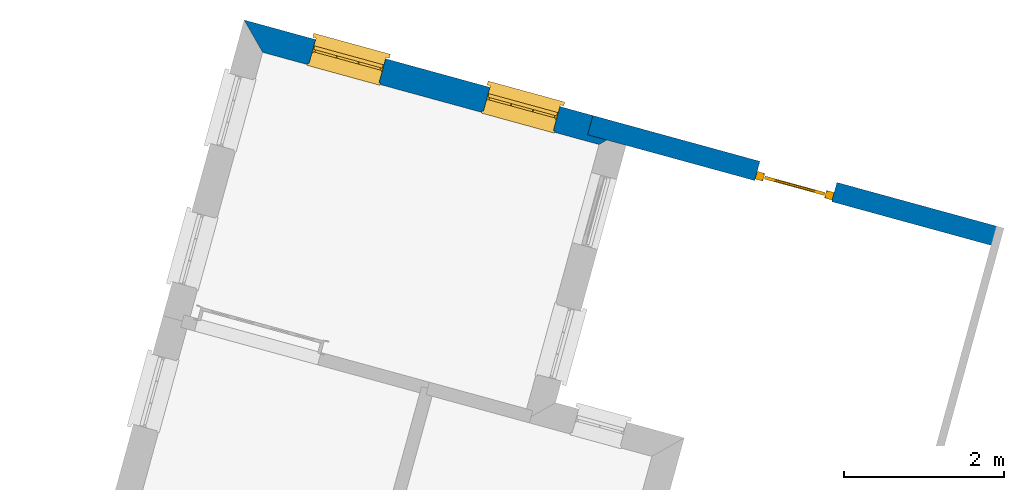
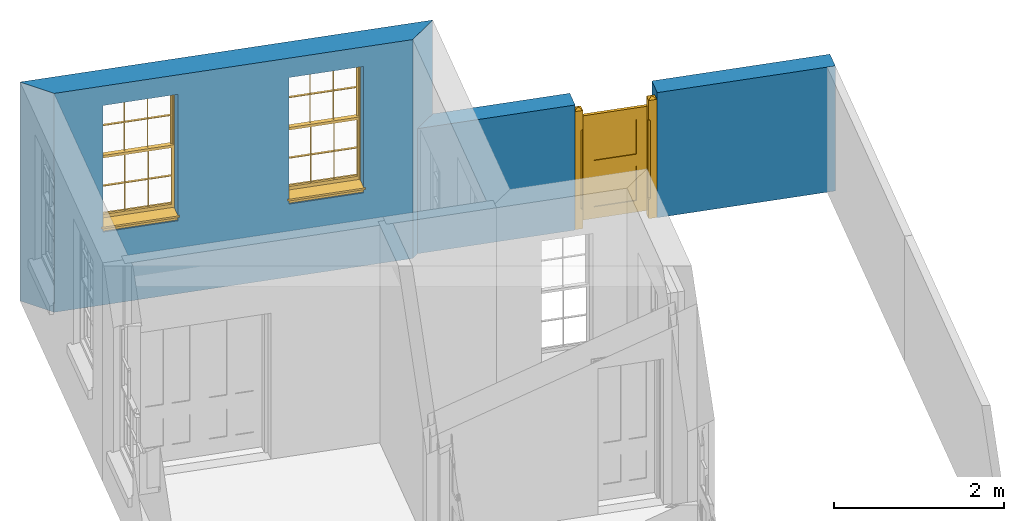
# One storey, part 7 of 8: 2 walls, 2 windows, 1 door, 3 openings.
"""IFC4 building model written with IfcOpenShell, lengths in metres."""

from ifc_helpers import new_model, si_unit, frame, origin, origin_with_axes, place, context, subcontext, project, spatial, polyline, outline, extrude, faceted_brep, source, transform, mapped, material, layer, layer_set, layer_usage, type_object, type_shapes, element, fill, save


model = new_model("IFC4")

# Units and contexts
model_context = context("Model", 3, world=origin_with_axes())
body_context = subcontext(model_context, "Body", "Model", "MODEL_VIEW")
ifc_project = project(units=[si_unit("PLANEANGLEUNIT", "RADIAN"), si_unit("MASSUNIT", "GRAM", prefix="KILO"), si_unit("FORCEUNIT", "NEWTON", prefix="KILO"), si_unit("LENGTHUNIT", "METRE"), si_unit("AREAUNIT", "SQUARE_METRE"), si_unit("VOLUMEUNIT", "CUBIC_METRE")], contexts=[model_context, model_context])

# Sites, building, storey
site_1_placement = place(None, origin_with_axes())
site_1 = spatial("IfcSite", under=ifc_project, at=site_1_placement, Name="Tamar")
site_2_placement = place(site_1_placement, origin_with_axes())
site_2 = spatial("IfcSite", under=site_1, at=site_2_placement, Name="Site plot-28", CompositionType="ELEMENT")
building_placement = place(None, origin_with_axes())
building = spatial("IfcBuilding", under=site_2, at=building_placement, Name="Building plot-28", CompositionType="ELEMENT")
storey_placement = place(None, frame((0.0, 0.0, 24.0), z_axis=(0.0, 0.0, 1.0), x_axis=(1.0, 0.0, 0.0)))
storey = spatial("IfcBuildingStorey", under=building, at=storey_placement, Name="plot-28 0", CompositionType="ELEMENT", Elevation=24.0)

# Wall, openings, windows
ifc_material_1 = material(Name="Masonry")
ifc_layer_1 = layer(ifc_material_1, 0.33, ventilated=False)
ifc_layer_set_1 = layer_set([ifc_layer_1], Name="exterior_0.08_0.25")
ifc_layer_usage_1 = layer_usage(ifc_layer_set_1, "AXIS2", "POSITIVE", -0.25)
wall_type_1 = type_object("IfcWallType", Name="exterior_0.08_0.25", PredefinedType="SOLIDWALL", material=ifc_layer_set_1)
wall_1_placement = place(storey_placement, frame((265.918112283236, 267.466264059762, 0.0), z_axis=(0.0, 0.0, 1.0), x_axis=(-0.964452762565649, 0.264255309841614, 0.0)))
wall_1 = element("IfcWall", 1, at=wall_1_placement, inside=storey, type_object=wall_type_1, material=ifc_layer_usage_1, Name="exterior", context=body_context, shape_type="SweptSolid", body=[
    extrude(outline(polyline([(0.0799999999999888, 0.0800000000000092), (-0.250000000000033, -0.250000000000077), (4.77974619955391, -0.249999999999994), (4.4497461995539, 0.0799999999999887), (0.0799999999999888, 0.0800000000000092)])), origin_with_axes(), (0.0, 0.0, 1.0), 3.15),
])
opening_1_placement = place(wall_1_placement, frame((0.677436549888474, 0.0, 1.05)))
opening_1 = element("IfcOpeningElement", 2, at=opening_1_placement, cuts=wall_1, Name="My Opening", ObjectType="Opening", context=body_context, shape_type="SweptSolid", body=[
    extrude(outline(polyline([(0.0, -0.270000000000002), (0.909999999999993, -0.27000000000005), (0.909999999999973, 1.1), (-2.04281036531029e-14, 1.10000000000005), (0.0, -0.270000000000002)])), origin_with_axes(), (0.0, 0.0, 1.0), 1.82),
])
opening_2_placement = place(wall_1_placement, frame((2.94230964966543, 0.0, 1.05)))
opening_2 = element("IfcOpeningElement", 3, at=opening_2_placement, cuts=wall_1, Name="My Opening", ObjectType="Opening", context=body_context, shape_type="SweptSolid", body=[
    extrude(outline(polyline([(0.0, -0.270000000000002), (0.909999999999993, -0.27000000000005), (0.909999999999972, 1.1), (-2.04281036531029e-14, 1.10000000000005), (0.0, -0.270000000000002)])), origin_with_axes(), (0.0, 0.0, 1.0), 1.82),
])
window_type = type_object("IfcWindowType", Name="sash_big", PartitioningType="DOUBLE_PANEL_HORIZONTAL", PredefinedType="NOTDEFINED")
shared_shape_1 = source(origin(), body_context, "Body", "Brep", [
    faceted_brep([(0.033125, 0.145, 0.975209), (0.01, 0.145, 0.975209), (0.033125, 0.145, 1.376042), (0.876875, 0.145, 0.975209), (0.876875, 0.145, 1.376042), (0.9, 0.145, 0.975209), (0.876875, 0.145, 1.386042), (0.876875, 0.145, 1.786875), (0.9, 0.145, 1.81), (0.033125, 0.145, 1.786875), (0.033125, 0.145, 1.386042), (0.01, 0.145, 1.81), (0.876875, 0.115, 1.376042), (0.876875, 0.115, 0.975209), (0.9, 0.115, 0.937083), (0.033125, 0.115, 1.786875), (0.01, 0.115, 1.81), (0.033125, 0.115, 1.386042), (0.01, 0.115, 0.937083), (0.033125, 0.115, 0.975209), (0.033125, 0.115, 1.376042), (0.876875, 0.115, 1.786875), (0.876875, 0.115, 1.386042), (0.9, 0.115, 1.81), (0.033125, 0.145, 0.937083), (0.01, 0.145, 0.937083), (0.033125, 0.145, 0.53625), (0.876875, 0.145, 0.937083), (0.876875, 0.145, 0.53625), (0.9, 0.145, 0.937083), (0.876875, 0.145, 0.52625), (0.876875, 0.145, 0.125417), (0.9, 0.145, 0.077167), (0.033125, 0.145, 0.125417), (0.033125, 0.145, 0.52625), (0.01, 0.145, 0.077167), (-0.0425, 0.0, 0.01), (-0.0425, -0.05, 0.001667), (0.0, 0.0, 0.01), (0.9525, 0.0, 0.01), (0.91, 0.0, 0.01), (0.9525, -0.05, 0.001667), (-0.02, 0.33, 0.077167), (0.0, 0.33, 0.077167), (-0.02, 0.36, 0.077167), (0.0, 0.19, 0.077167), (0.01, 0.19, 0.077167), (0.91, 0.19, 0.077167), (0.91, 0.33, 0.077167), (0.9, 0.19, 0.077167), (0.93, 0.33, 0.077167), (0.93, 0.36, 0.077167), (0.01, 0.175, 0.975209), (0.9, 0.175, 0.975209), (0.876875, 0.175, 0.125417), (0.876875, 0.175, 0.52625), (0.9, 0.175, 0.077167), (0.876875, 0.175, 0.53625), (0.876875, 0.175, 0.937083), (0.033125, 0.175, 0.125417), (0.01, 0.175, 0.077167), (0.033125, 0.175, 0.52625), (0.033125, 0.175, 0.937083), (0.033125, 0.175, 0.53625), (-0.02, 0.33, 0.052167), (-0.02, 0.36, 0.052167), (0.93, 0.36, 0.052167), (0.93, 0.33, 0.052167), (0.91, 0.33, 0.052167), (0.0, 0.33, 0.052167), (0.91, 0.1, 0.026667), (0.0, 0.1, 0.026667), (-0.0425, -0.05, -0.123333), (0.9525, -0.05, -0.123333), (-0.0425, 0.0, -0.123333), (0.9525, 0.0, -0.123333), (0.01, 0.19, 1.81), (0.9, 0.19, 1.81), (0.0, 0.19, 1.82), (0.91, 0.19, 1.82), (0.01, 0.1, 0.077167), (0.9, 0.1, 0.077167), (0.592292, 0.145, 0.125417), (0.592292, 0.175, 0.125417), (0.317708, 0.175, 0.125417), (0.317708, 0.145, 0.125417), (0.592292, 0.145, 0.53625), (0.317708, 0.145, 0.53625), (0.317708, 0.145, 0.52625), (0.592292, 0.145, 0.52625), (0.592292, 0.175, 0.53625), (0.317708, 0.175, 0.53625), (0.592292, 0.115, 1.386042), (0.592292, 0.145, 1.386042), (0.317708, 0.145, 1.386042), (0.317708, 0.115, 1.386042), (0.317708, 0.115, 1.376042), (0.592292, 0.115, 1.376042), (0.317708, 0.145, 1.376042), (0.592292, 0.145, 1.376042), (0.602292, 0.115, 1.376042), (0.592292, 0.115, 0.975209), (0.602292, 0.115, 0.975209), (0.602292, 0.145, 0.975209), (0.592292, 0.145, 0.975209), (0.602292, 0.145, 1.376042), (0.602292, 0.175, 0.53625), (0.602292, 0.145, 0.53625), (0.317708, 0.175, 0.52625), (0.307708, 0.175, 0.125417), (0.307708, 0.175, 0.52625), (0.602292, 0.175, 0.52625), (0.602292, 0.175, 0.125417), (0.592292, 0.175, 0.52625), (0.307708, 0.175, 0.53625), (0.317708, 0.175, 0.937083), (0.307708, 0.175, 0.937083), (0.602292, 0.175, 0.937083), (0.592292, 0.175, 0.937083), (0.307708, 0.145, 0.52625), (0.307708, 0.145, 0.125417), (0.307708, 0.145, 0.53625), (0.307708, 0.145, 0.937083), (0.592292, 0.145, 0.937083), (0.317708, 0.145, 0.937083), (0.602292, 0.145, 0.937083), (0.602292, 0.145, 0.52625), (0.602292, 0.145, 0.125417), (0.307708, 0.115, 1.386042), (0.307708, 0.115, 1.376042), (0.307708, 0.115, 0.975209), (0.317708, 0.115, 0.975209), (0.317708, 0.115, 1.786875), (0.307708, 0.115, 1.786875), (0.602292, 0.115, 1.786875), (0.592292, 0.115, 1.786875), (0.602292, 0.115, 1.386042), (0.602292, 0.145, 1.386042), (0.307708, 0.145, 1.386042), (0.307708, 0.145, 1.786875), (0.317708, 0.145, 1.786875), (0.592292, 0.145, 1.786875), (0.602292, 0.145, 1.786875), (0.307708, 0.145, 1.376042), (0.317708, 0.145, 0.975209), (0.307708, 0.145, 0.975209), (0.91, 0.1, 1.82), (0.9, 0.1, 1.81), (0.01, 0.1, 1.81), (0.0, 0.1, 1.82), (0.91, 0.0, 0.0), (0.0, 0.0, 0.0), (0.91, 0.33, 0.0), (0.0, 0.33, 0.0)], [[[0, 1, 2]], [[3, 4, 5]], [[6, 7, 8]], [[9, 10, 11]], [[12, 13, 14]], [[15, 16, 17]], [[18, 19, 20]], [[21, 22, 23]], [[24, 25, 26]], [[27, 28, 29]], [[30, 31, 32]], [[33, 34, 35]], [[14, 27, 29]], [[25, 24, 18]], [[36, 37, 38]], [[39, 40, 41]], [[42, 43, 44]], [[45, 46, 43]], [[47, 48, 49]], [[50, 51, 48]], [[1, 0, 52]], [[5, 53, 3]], [[54, 55, 56]], [[57, 58, 53]], [[59, 60, 61]], [[62, 63, 52]], [[48, 43, 46, 49]], [[51, 44, 43, 48]], [[64, 42, 44, 65]], [[65, 44, 51, 66]], [[66, 51, 50, 67]], [[65, 66, 68, 69]], [[60, 56, 49, 46]], [[70, 71, 38, 40]], [[37, 41, 40, 38]], [[37, 72, 73, 41]], [[74, 75, 73, 72]], [[8, 11, 76, 77]], [[76, 78, 79, 77]], [[32, 35, 80, 81]], [[81, 80, 71, 70]], [[82, 83, 84, 85]], [[86, 87, 88, 89]], [[86, 90, 91, 87]], [[92, 93, 94, 95]], [[92, 95, 96, 97]], [[96, 98, 99, 97]], [[100, 97, 101, 102]], [[103, 104, 99, 105]], [[97, 99, 104, 101]], [[102, 103, 105, 100]], [[28, 57, 106, 107]], [[108, 84, 109, 110]], [[111, 112, 83, 113]], [[114, 110, 61, 63]], [[90, 113, 108, 91]], [[115, 91, 114, 116]], [[117, 106, 90, 118]], [[111, 106, 57, 55]], [[119, 110, 109, 120]], [[34, 61, 110, 119]], [[89, 113, 83, 82]], [[88, 108, 113, 89]], [[85, 84, 108, 88]], [[121, 114, 63, 26]], [[122, 116, 114, 121]], [[123, 118, 90, 86]], [[87, 91, 115, 124]], [[107, 106, 117, 125]], [[126, 111, 55, 30]], [[127, 112, 111, 126]], [[126, 30, 28, 107]], [[88, 119, 120, 85]], [[126, 89, 82, 127]], [[125, 123, 86, 107]], [[121, 26, 34, 119]], [[124, 122, 121, 87]], [[128, 17, 20, 129]], [[96, 129, 130, 131]], [[132, 133, 128, 95]], [[134, 135, 92, 136]], [[100, 12, 22, 136]], [[137, 6, 4, 105]], [[94, 138, 139, 140]], [[137, 93, 141, 142]], [[99, 98, 94, 93]], [[143, 2, 10, 138]], [[144, 145, 143, 98]], [[129, 143, 145, 130]], [[20, 2, 143, 129]], [[131, 144, 98, 96]], [[128, 138, 10, 17]], [[133, 139, 138, 128]], [[135, 141, 93, 92]], [[95, 94, 140, 132]], [[22, 6, 137, 136]], [[136, 137, 142, 134]], [[100, 105, 4, 12]], [[107, 86, 89, 126]], [[106, 111, 113, 90]], [[91, 108, 110, 114]], [[87, 121, 119, 88]], [[97, 100, 136, 92]], [[129, 96, 95, 128]], [[98, 143, 138, 94]], [[105, 99, 93, 137]], [[131, 101, 104, 144]], [[124, 115, 118, 123]], [[132, 140, 141, 135]], [[120, 109, 59, 33]], [[15, 9, 139, 133]], [[134, 142, 7, 21]], [[31, 54, 112, 127]], [[36, 74, 72, 37]], [[39, 41, 73, 75]], [[18, 14, 101, 131]], [[23, 16, 132, 135]], [[83, 56, 60, 84]], [[52, 53, 118, 115]], [[53, 52, 144, 104]], [[11, 8, 141, 140]], [[14, 18, 124, 123]], [[2, 1, 11, 10]], [[8, 5, 4, 6]], [[57, 53, 56, 55]], [[60, 52, 63, 61]], [[26, 25, 35, 34]], [[32, 29, 28, 30]], [[14, 23, 22, 12]], [[18, 20, 17, 16]], [[19, 0, 2, 20]], [[17, 10, 9, 15]], [[12, 4, 3, 13]], [[21, 7, 6, 22]], [[27, 58, 57, 28]], [[30, 55, 54, 31]], [[33, 59, 61, 34]], [[26, 63, 62, 24]], [[5, 8, 77, 53]], [[76, 11, 1, 52]], [[46, 45, 78, 76]], [[49, 77, 79, 47]], [[70, 146, 147, 81]], [[71, 80, 148, 149]], [[19, 130, 145, 0]], [[102, 13, 3, 103]], [[116, 122, 24, 62]], [[29, 32, 81, 14]], [[80, 35, 25, 18]], [[60, 46, 76, 52]], [[77, 49, 56, 53]], [[23, 14, 81, 147]], [[16, 148, 80, 18]], [[35, 85, 120]], [[120, 33, 35]], [[127, 82, 32]], [[32, 31, 127]], [[32, 82, 85, 35]], [[102, 101, 14]], [[14, 13, 102]], [[18, 131, 130]], [[130, 19, 18]], [[134, 21, 23]], [[23, 135, 134]], [[16, 15, 133]], [[133, 132, 16]], [[11, 140, 139]], [[139, 9, 11]], [[142, 141, 8]], [[8, 7, 142]], [[23, 147, 148, 16]], [[146, 149, 148, 147]], [[52, 115, 116]], [[116, 62, 52]], [[118, 53, 117]], [[58, 117, 53]], [[27, 125, 117, 58]], [[56, 83, 112]], [[112, 54, 56]], [[109, 84, 60]], [[60, 59, 109]], [[125, 27, 14]], [[14, 123, 125]], [[122, 124, 18]], [[18, 24, 122]], [[145, 144, 52]], [[52, 0, 145]], [[103, 3, 53]], [[53, 104, 103]], [[79, 78, 149, 146]], [[78, 45, 71, 149]], [[146, 70, 47, 79]], [[150, 75, 74, 151]], [[68, 66, 67]], [[48, 68, 67, 50]], [[69, 64, 65]], [[42, 64, 69, 43]], [[69, 68, 152, 153]], [[70, 68, 48, 47]], [[150, 152, 68, 70]], [[43, 69, 71, 45]], [[69, 153, 151, 71]], [[152, 150, 151, 153]], [[38, 151, 74, 36]], [[71, 151, 38]], [[39, 75, 150, 40]], [[40, 150, 70]]]),
])
type_shapes(window_type, [shared_shape_1])
window_1_placement = place(storey_placement, frame((265.33610566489, 267.905682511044, 1.05), z_axis=(0.0, 0.0, 1.0), x_axis=(-0.877652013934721, 0.240472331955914, 0.0)))
window_1 = element("IfcWindow", 4, at=window_1_placement, inside=storey, type_object=window_type, Name="kitchen street window", OverallHeight=1.82, OverallWidth=0.91, context=body_context, shape_type="MappedRepresentation", body=[
    mapped(shared_shape_1, transform((0.0, 0.0, 0.0), scale=1.0)),
])
fill(opening_1, window_1)
window_2_placement = place(storey_placement, frame((263.15174254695, 268.504187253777, 1.05), z_axis=(0.0, 0.0, 1.0), x_axis=(-0.877652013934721, 0.240472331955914, 0.0)))
window_2 = element("IfcWindow", 5, at=window_2_placement, inside=storey, type_object=window_type, Name="kitchen street window", OverallHeight=1.82, OverallWidth=0.91, context=body_context, shape_type="MappedRepresentation", body=[
    mapped(shared_shape_1, transform((0.0, 0.0, 0.0), scale=1.0)),
])
fill(opening_2, window_2)

# Wall, opening, door
ifc_material_2 = material(Name="Masonry")
ifc_layer_2 = layer(ifc_material_2, 0.25, ventilated=False)
ifc_layer_set_2 = layer_set([ifc_layer_2], Name="fence_0_0.25")
ifc_layer_usage_2 = layer_usage(ifc_layer_set_2, "AXIS2", "POSITIVE", -0.25)
wall_type_2 = type_object("IfcWallType", Name="fence_0_0.25", PredefinedType="SOLIDWALL", material=ifc_layer_set_2)
wall_2_placement = place(storey_placement, frame((270.586077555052, 266.187264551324, 0.0), z_axis=(0.0, 0.0, 1.0), x_axis=(-0.964452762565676, 0.264255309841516, 0.0)))
wall_2 = element("IfcWall", 6, at=wall_2_placement, inside=storey, type_object=wall_type_2, material=ifc_layer_usage_2, Name="fence", context=body_context, shape_type="SweptSolid", body=[
    extrude(outline(polyline([(-0.25000000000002, -1.64619169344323e-14), (-0.250000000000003, -0.250000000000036), (5.09001441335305, -0.250000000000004), (5.09001441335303, 1.58229433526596e-14), (-0.25000000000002, -1.64619169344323e-14)])), origin_with_axes(), (0.0, 0.0, 1.0), 1.8),
])
opening_3_placement = place(wall_2_placement, frame((1.92000720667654, 0.0, -0.0100000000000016)))
opening_3 = element("IfcOpeningElement", 7, at=opening_3_placement, cuts=wall_2, Name="My Opening", ObjectType="Opening", context=body_context, shape_type="SweptSolid", body=[
    extrude(outline(polyline([(0.0, -0.270000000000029), (0.99999999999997, -0.269999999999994), (0.999999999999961, 1.01999999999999), (-8.88178419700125e-15, 1.01999999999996), (0.0, -0.270000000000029)])), origin_with_axes(), (0.0, 0.0, 1.0), 1.81),
])
door_type = type_object("IfcDoorType", Name="gate-small", OperationType="SINGLE_SWING_LEFT", PredefinedType="NOTDEFINED")
shared_shape_2 = source(origin(), body_context, "Body", "Brep", [
    faceted_brep([(0.9, 0.25, 1.7), (0.9, 0.15, 1.7), (0.95, 0.2, 1.73), (1.0, 0.15, 1.433333), (1.0, 0.15, 1.7), (0.9, 0.15, 1.433333), (0.9, 0.25, 1.433333), (0.9, 0.25, 0.0), (1.0, 0.25, 0.0), (1.0, 0.15, 0.0), (0.9, 0.15, 0.0), (1.0, 0.25, 1.433333), (1.0, 0.25, 1.7), (0.9, 0.25, 0.266667), (1.0, 0.25, 0.266667), (1.0, 0.25, 0.291667), (0.925, 0.25, 0.291667), (0.925, 0.25, 1.408333), (1.0, 0.25, 1.408333), (1.0, 0.15, 0.266667), (1.0, 0.15, 0.291667), (1.0, 0.15, 1.408333), (0.9, 0.15, 0.266667), (0.9, 0.175, 0.291667), (0.9, 0.225, 0.291667), (0.925, 0.15, 0.291667), (0.9, 0.175, 1.408333), (0.925, 0.15, 1.408333), (0.9, 0.225, 1.408333), (0.0, 0.25, 1.7), (0.0, 0.15, 1.7), (0.05, 0.2, 1.73), (0.0, 0.25, 1.433333), (0.1, 0.25, 1.7), (0.1, 0.25, 1.433333), (0.1, 0.15, 1.7), (0.1, 0.15, 1.433333), (0.1, 0.15, 0.0), (0.0, 0.15, 0.0), (0.0, 0.25, 0.0), (0.1, 0.25, 0.0), (0.0, 0.15, 1.433333), (0.1, 0.15, 0.266667), (0.0, 0.15, 0.266667), (0.0, 0.15, 0.291667), (0.075, 0.15, 0.291667), (0.075, 0.15, 1.408333), (0.0, 0.15, 1.408333), (0.0, 0.25, 0.266667), (0.0, 0.25, 0.291667), (0.0, 0.25, 1.408333), (0.1, 0.25, 0.266667), (0.1, 0.225, 0.291667), (0.1, 0.175, 0.291667), (0.075, 0.25, 0.291667), (0.1, 0.225, 1.408333), (0.075, 0.25, 1.408333), (0.1, 0.175, 1.408333), (0.11, 0.18, 1.433333), (0.11, 0.18, 1.6), (0.11, 0.22, 1.6), (0.11, 0.22, 1.433333), (0.76, 0.22, 1.433333), (0.76, 0.22, 1.6), (0.89, 0.22, 1.6), (0.89, 0.22, 1.433333), (0.89, 0.18, 1.6), (0.89, 0.18, 1.433333), (0.24, 0.18, 1.433333), (0.24, 0.18, 1.6), (0.76, 0.22, 0.1), (0.89, 0.22, 0.1), (0.89, 0.18, 0.1), (0.76, 0.18, 0.1), (0.24, 0.22, 1.6), (0.76, 0.18, 1.6), (0.11, 0.22, 0.1), (0.24, 0.22, 0.1), (0.24, 0.18, 0.1), (0.11, 0.18, 0.1), (0.76, 0.18, 1.433333), (0.24, 0.22, 1.433333), (0.76, 0.18, 0.266667), (0.24, 0.18, 0.266667), (0.24, 0.22, 0.933333), (0.11, 0.22, 0.933333), (0.76, 0.18, 0.933333), (0.24, 0.18, 0.933333), (0.24, 0.18, 0.766667), (0.76, 0.18, 0.766667), (0.11, 0.22, 0.766667), (0.24, 0.22, 0.766667), (0.24, 0.22, 0.266667), (0.11, 0.22, 0.266667), (0.76, 0.22, 0.766667), (0.76, 0.21, 0.766667), (0.24, 0.21, 0.766667), (0.76, 0.22, 0.933333), (0.76, 0.21, 0.933333), (0.76, 0.21, 1.433333), (0.76, 0.22, 0.266667), (0.89, 0.18, 0.766667), (0.89, 0.18, 0.266667), (0.89, 0.18, 0.933333), (0.11, 0.18, 0.766667), (0.11, 0.18, 0.266667), (0.11, 0.18, 0.933333), (0.89, 0.22, 0.766667), (0.89, 0.22, 0.266667), (0.89, 0.22, 0.933333), (0.76, 0.19, 0.266667), (0.24, 0.19, 0.266667), (0.76, 0.19, 0.933333), (0.24, 0.19, 0.933333), (0.24, 0.19, 1.433333), (0.76, 0.19, 1.433333), (0.24, 0.19, 0.766667), (0.76, 0.19, 0.766667), (0.24, 0.21, 1.433333), (0.24, 0.21, 0.933333), (0.76, 0.21, 0.266667), (0.24, 0.21, 0.266667)], [[[0, 1, 2]], [[3, 4, 1]], [[3, 1, 5]], [[5, 1, 0]], [[5, 0, 6]], [[7, 8, 9]], [[7, 9, 10]], [[11, 12, 4]], [[11, 4, 3]], [[6, 0, 12]], [[6, 12, 11]], [[7, 13, 14]], [[7, 14, 8]], [[15, 14, 13]], [[15, 13, 16]], [[17, 18, 15]], [[17, 15, 16]], [[17, 6, 11]], [[17, 11, 18]], [[8, 14, 19]], [[8, 19, 9]], [[14, 15, 20]], [[14, 20, 19]], [[15, 18, 21]], [[15, 21, 20]], [[18, 11, 3]], [[18, 3, 21]], [[10, 22, 13]], [[10, 13, 7]], [[23, 24, 13]], [[23, 13, 22]], [[25, 23, 22]], [[5, 26, 27]], [[9, 19, 22]], [[9, 22, 10]], [[19, 20, 25]], [[19, 25, 22]], [[28, 17, 16]], [[28, 16, 24]], [[21, 3, 5]], [[21, 5, 27]], [[21, 27, 25]], [[21, 25, 20]], [[25, 27, 26]], [[25, 26, 23]], [[16, 13, 24]], [[26, 28, 24]], [[26, 24, 23]], [[28, 26, 5]], [[28, 5, 6]], [[17, 28, 6]], [[29, 30, 31]], [[32, 29, 33]], [[32, 33, 34]], [[34, 33, 35]], [[34, 35, 36]], [[37, 38, 39]], [[37, 39, 40]], [[41, 30, 29]], [[41, 29, 32]], [[36, 35, 30]], [[36, 30, 41]], [[37, 42, 43]], [[37, 43, 38]], [[44, 43, 42]], [[44, 42, 45]], [[46, 47, 44]], [[46, 44, 45]], [[46, 36, 41]], [[46, 41, 47]], [[38, 43, 48]], [[38, 48, 39]], [[43, 44, 49]], [[43, 49, 48]], [[44, 47, 50]], [[44, 50, 49]], [[47, 41, 32]], [[47, 32, 50]], [[40, 51, 42]], [[40, 42, 37]], [[52, 53, 42]], [[52, 42, 51]], [[54, 52, 51]], [[34, 55, 56]], [[39, 48, 51]], [[39, 51, 40]], [[48, 49, 54]], [[48, 54, 51]], [[57, 46, 45]], [[57, 45, 53]], [[50, 32, 34]], [[50, 34, 56]], [[50, 56, 54]], [[50, 54, 49]], [[54, 56, 55]], [[54, 55, 52]], [[45, 42, 53]], [[55, 57, 53]], [[55, 53, 52]], [[57, 55, 34]], [[57, 34, 36]], [[46, 57, 36]], [[33, 29, 31]], [[35, 33, 31]], [[35, 31, 30]], [[12, 0, 2]], [[4, 12, 2]], [[4, 2, 1]], [[58, 59, 60]], [[58, 60, 61]], [[62, 63, 64]], [[62, 64, 65]], [[65, 64, 66]], [[65, 66, 67]], [[68, 69, 59]], [[68, 59, 58]], [[70, 71, 72]], [[70, 72, 73]], [[74, 60, 59]], [[74, 59, 69]], [[64, 63, 75]], [[64, 75, 66]], [[74, 69, 75]], [[74, 75, 63]], [[76, 77, 78]], [[76, 78, 79]], [[77, 70, 73]], [[77, 73, 78]], [[67, 66, 75]], [[67, 75, 80]], [[81, 74, 63]], [[81, 63, 62]], [[61, 60, 74]], [[61, 74, 81]], [[82, 83, 78]], [[82, 78, 73]], [[75, 69, 68]], [[75, 68, 80]], [[61, 81, 84]], [[61, 84, 85]], [[86, 87, 88]], [[86, 88, 89]], [[90, 91, 92]], [[90, 92, 93]], [[76, 93, 92]], [[76, 92, 77]], [[91, 94, 95]], [[91, 95, 96]], [[90, 85, 84]], [[90, 84, 91]], [[62, 97, 98]], [[62, 98, 99]], [[77, 92, 100]], [[77, 100, 70]], [[101, 89, 82]], [[101, 82, 102]], [[91, 84, 97]], [[91, 97, 94]], [[67, 80, 86]], [[67, 86, 103]], [[72, 102, 82]], [[72, 82, 73]], [[88, 104, 105]], [[88, 105, 83]], [[101, 103, 86]], [[101, 86, 89]], [[68, 58, 106]], [[68, 106, 87]], [[78, 83, 105]], [[78, 105, 79]], [[107, 101, 102]], [[107, 102, 108]], [[88, 87, 106]], [[88, 106, 104]], [[65, 67, 103]], [[65, 103, 109]], [[71, 108, 102]], [[71, 102, 72]], [[94, 107, 108]], [[94, 108, 100]], [[107, 109, 103]], [[107, 103, 101]], [[62, 65, 109]], [[62, 109, 97]], [[70, 100, 108]], [[70, 108, 71]], [[105, 104, 90]], [[105, 90, 93]], [[94, 97, 109]], [[94, 109, 107]], [[106, 58, 61]], [[106, 61, 85]], [[79, 105, 93]], [[79, 93, 76]], [[83, 82, 110]], [[83, 110, 111]], [[104, 106, 85]], [[104, 85, 90]], [[87, 86, 112]], [[87, 112, 113]], [[114, 113, 112]], [[114, 112, 115]], [[68, 87, 113]], [[68, 113, 114]], [[80, 68, 114]], [[80, 114, 115]], [[86, 80, 115]], [[86, 115, 112]], [[116, 111, 110]], [[116, 110, 117]], [[88, 83, 111]], [[88, 111, 116]], [[89, 88, 116]], [[89, 116, 117]], [[82, 89, 117]], [[82, 117, 110]], [[118, 99, 98]], [[118, 98, 119]], [[84, 81, 118]], [[84, 118, 119]], [[81, 62, 99]], [[81, 99, 118]], [[97, 84, 119]], [[97, 119, 98]], [[96, 95, 120]], [[96, 120, 121]], [[94, 100, 120]], [[94, 120, 95]], [[100, 92, 121]], [[100, 121, 120]], [[92, 91, 96]], [[92, 96, 121]]]),
])
type_shapes(door_type, [shared_shape_2])
door_placement = place(storey_placement, frame((268.805670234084, 266.955038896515, -0.0100000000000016), z_axis=(0.0, 0.0, 1.0), x_axis=(-0.964452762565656, 0.264255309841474, 0.0)))
door = element("IfcDoor", 8, at=door_placement, inside=storey, type_object=door_type, Name="gate", OverallHeight=1.81, OverallWidth=1.0, context=body_context, shape_type="MappedRepresentation", body=[
    mapped(shared_shape_2, transform((0.0, 0.0, 0.0), scale=1.0)),
])
fill(opening_3, door)

save(model, "model.ifc")
